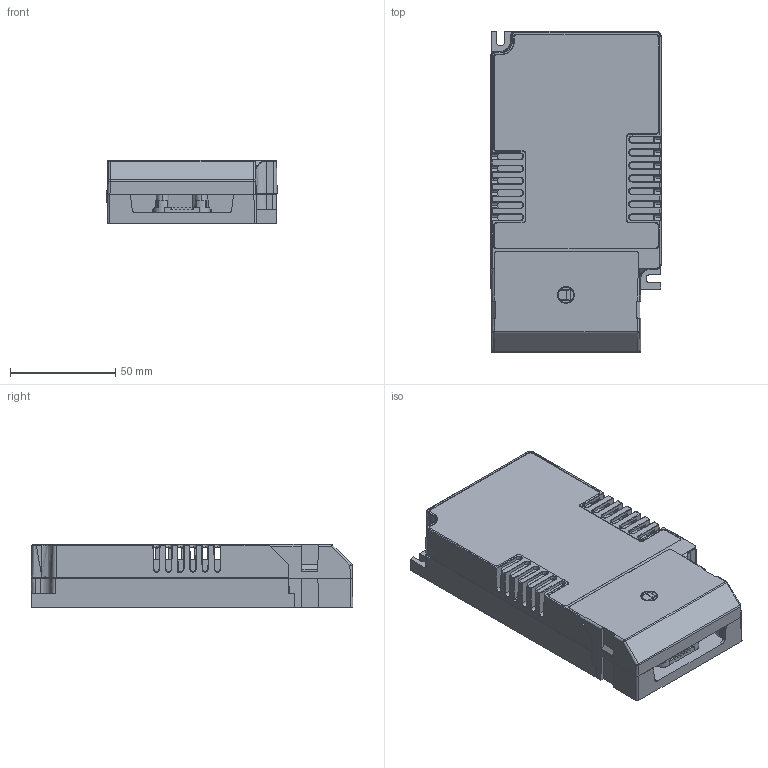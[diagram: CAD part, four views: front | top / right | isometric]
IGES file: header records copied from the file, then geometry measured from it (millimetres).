
Start section: SolidWorks IGES file using analytic representation for surfaces
Global section: file name: C:\Users\vuorinen_kari\Desktop\prj\kotelo\LC1x50-E-CC_3D_2.IGS; native system: SolidWorks 2014; preprocessor: SolidWorks 2014; author: vuorinen_kari; date: 141118.153116; units: millimetre
Bounding box: 81.09 x 153.13 x 30 mm (x, y, z)
Surface area: 67445.9 mm2 (no closed solid volume)
Topology: 0 solids, 0 shells, 822 faces, 7400 edges, 7396 vertices
Faces by surface type: bspline 485, revolution 337
